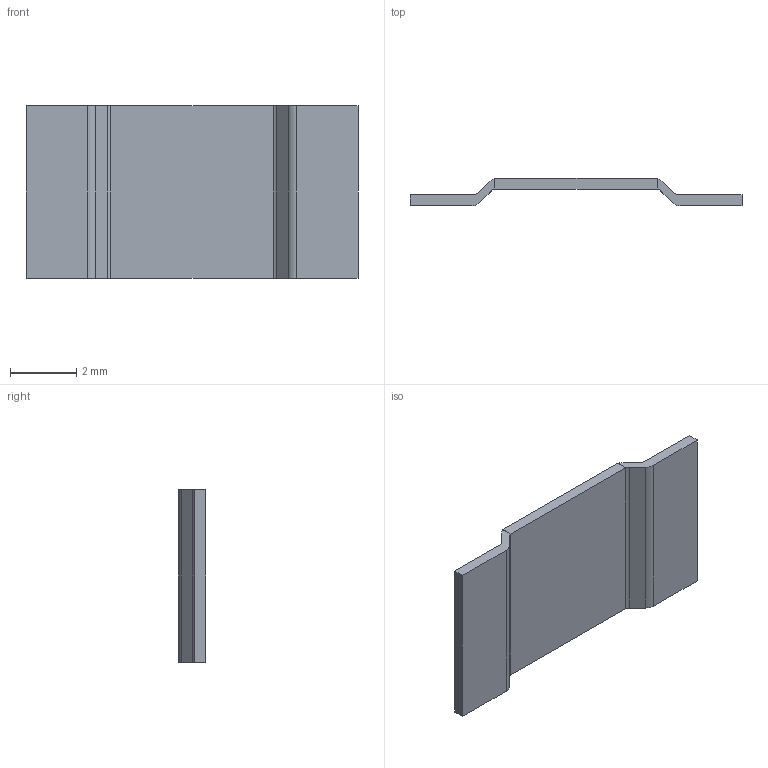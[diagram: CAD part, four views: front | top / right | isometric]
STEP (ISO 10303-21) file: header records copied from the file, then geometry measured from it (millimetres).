
FILE_DESCRIPTION (( 'STEP AP203' ), '1' );
FILE_NAME ('PEWK 3920-4m¦¸.STEP', '2023-11-01T05:34:32', ( 'meks@163.com' ), ( '' ), 'SwSTEP 2.0', 'SolidWorks 2020', '' );
FILE_SCHEMA (( 'CONFIG_CONTROL_DESIGN' ));
Length unit declared in the file: millimetre
Products named in the file (1): PEWK 3920-4m次
Bounding box: 10 x 0.83 x 5.2 mm (x, y, z)
Volume: 17.1 mm3; surface area: 125 mm2
Topology: 3 solids, 3 shells, 147 faces, 390 edges, 260 vertices
Faces by surface type: plane 113, bspline 18, cylinder 16
Entity records: 5709 total; most frequent: CARTESIAN_POINT 2064, ORIENTED_EDGE 780, DIRECTION 646, EDGE_CURVE 390, LINE 322, VECTOR 322, VERTEX_POINT 260, AXIS2_PLACEMENT_3D 162
